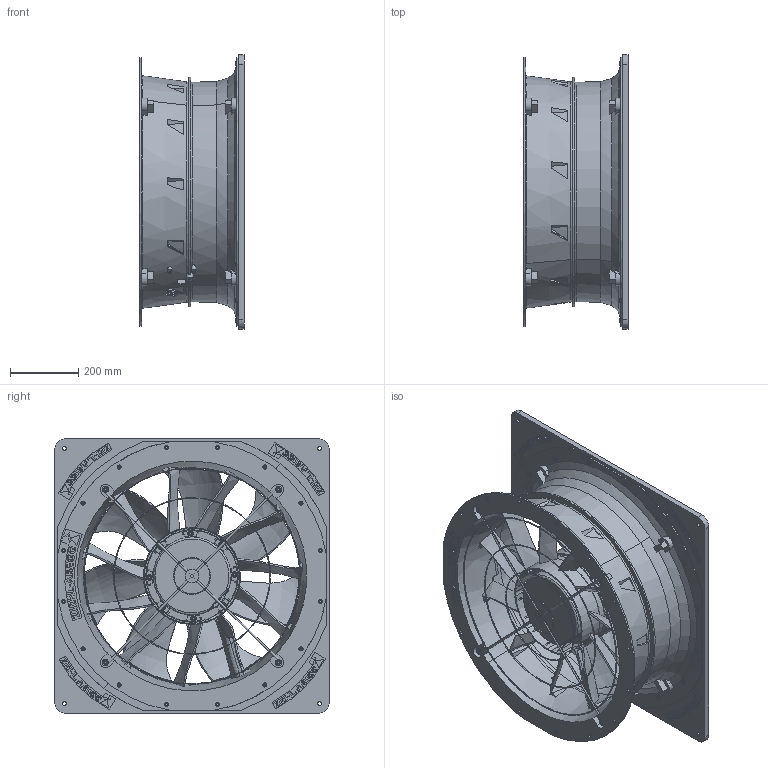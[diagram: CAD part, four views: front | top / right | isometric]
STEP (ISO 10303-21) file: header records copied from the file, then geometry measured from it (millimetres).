
FILE_DESCRIPTION((''),'2;1');
FILE_NAME('19063-QG04_4_KM_ASM','2015-04-17T',('jakob1'),(''),'PRO/ENGINEER BY PARAMETRIC TECHNOLOGY CORPORATION, 2011490','PRO/ENGINEER BY PARAMETRIC TECHNOLOGY CORPORATION, 2011490','');
FILE_SCHEMA(('AUTOMOTIVE_DESIGN { 1 2 10303 214 0 1 1 1 }'));
Length unit declared in the file: millimetre
Products named in the file (27): 19063-QG04_KM_SKEL; 19063-AG01_2_KM_SKEL; M01152-02; WN33509A_M20X1_5-O-RING; 01152-KN01_2_EM_ASM; 6306-182_KM; WN32037A_M8X31_5; 6402-027_KM; 19063-AG01_2_KM_ASM; WN32037A_M8X25; 7200-077; 3351-012_KM_SKEL; M3351-15_KM_EC152_AF0; M3351-22_KM_AF0; 1606-023_1; 3351-012_EM_KM_ASM; 3310-492_SKEL; M3310-492_1_KM_AF0; M3310-492_2; WN8_39_5_AF0; 3310-492_KM_ASM; WN32098_KB60X20; WN32202_6_4; WN32232_B_M6; 3720-003; 6242-003_KM; 19063-QG04_4_KM_ASM
Assembly tree (94 placements, depth 4):
  19063-QG04_4_KM_ASM
    19063-QG04_KM_SKEL
    19063-AG01_2_KM_ASM
      19063-AG01_2_KM_SKEL
      01152-KN01_2_EM_ASM
        M01152-02
        WN33509A_M20X1_5-O-RING  x3
      6306-182_KM
      WN32037A_M8X31_5  x6
      6402-027_KM
    WN32037A_M8X25  x8
    7200-077  x8
    3351-012_EM_KM_ASM
      3351-012_KM_SKEL
      M3351-15_KM_EC152_AF0
      M3351-22_KM_AF0
      1606-023_1  x4
    3310-492_KM_ASM
      3310-492_SKEL
      M3310-492_1_KM_AF0
      M3310-492_2  x4
      WN8_39_5_AF0
    WN32098_KB60X20  x20
    WN32202_6_4  x20
    WN32232_B_M6  x4
    3720-003
    6242-003_KM
Bounding box: 306 x 805 x 805 mm (x, y, z)
Volume: 19894402.7 mm3; surface area: 4147251.2 mm2
Topology: 137 solids, 137 shells, 4226 faces, 10857 edges, 7051 vertices
Faces by surface type: plane 1824, cylinder 1178, bspline 481, cone 301, extrusion 286, torus 101, sphere 53, revolution 2
Entity records: 146702 total; most frequent: CARTESIAN_POINT 62503, ORIENTED_EDGE 16342, DIRECTION 12664, EDGE_CURVE 8171, VERTEX_POINT 5349, VECTOR 4768, LINE 4482, AXIS2_PLACEMENT_3D 3947
